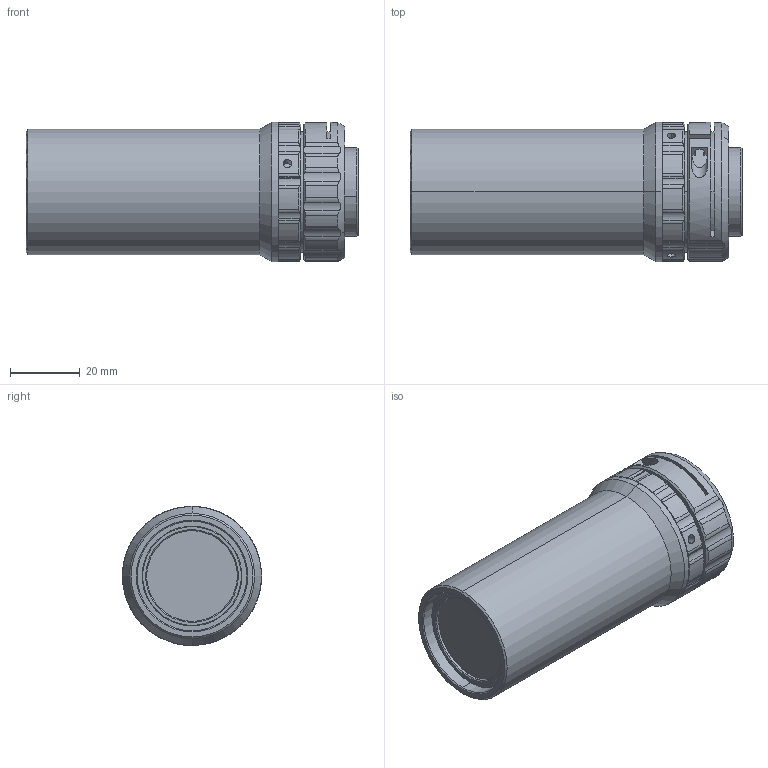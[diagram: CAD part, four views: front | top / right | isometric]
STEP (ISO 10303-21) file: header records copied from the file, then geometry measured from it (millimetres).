
FILE_DESCRIPTION (( 'STEP AP203' ), '1' );
FILE_NAME ('WWT121-05-190.STEP', '2022-08-16T03:55:44', ( '' ), ( '' ), 'SwSTEP 2.0', 'SolidWorks 2017', '' );
FILE_SCHEMA (( 'CONFIG_CONTROL_DESIGN' ));
Length unit declared in the file: millimetre
Products named in the file (1): WWT121-05-190
Bounding box: 95.46 x 40 x 40 mm (x, y, z)
Volume: 96116 mm3; surface area: 14860.1 mm2
Topology: 1 solids, 1 shells, 198 faces, 504 edges, 314 vertices
Faces by surface type: cylinder 114, plane 43, cone 41
Entity records: 6746 total; most frequent: CARTESIAN_POINT 1958, ORIENTED_EDGE 1004, DIRECTION 997, EDGE_CURVE 502, AXIS2_PLACEMENT_3D 421, VERTEX_POINT 314, CIRCLE 222, EDGE_LOOP 208
